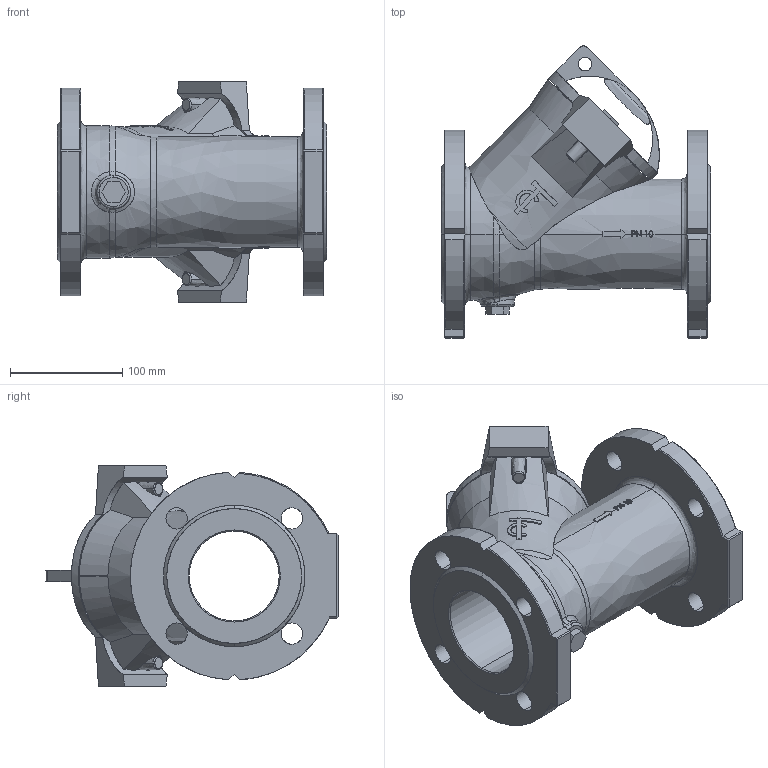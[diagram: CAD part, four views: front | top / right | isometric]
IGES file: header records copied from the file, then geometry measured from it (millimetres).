
Start section: SolidWorks IGES file using analytic representation for surfaces
Global section: file name: D:\part\3D Projects\CBL X240\DN 65\CBL DN65.IGS; native system: SolidWorks 2009; preprocessor: SolidWorks 2009; author: zhixin.zheng; date: 100505.145000; units: millimetre
Bounding box: 240 x 260.13 x 196 mm (x, y, z)
Surface area: 290144.9 mm2 (no closed solid volume)
Topology: 0 solids, 0 shells, 387 faces, 4298 edges, 4290 vertices
Faces by surface type: bspline 278, revolution 109
